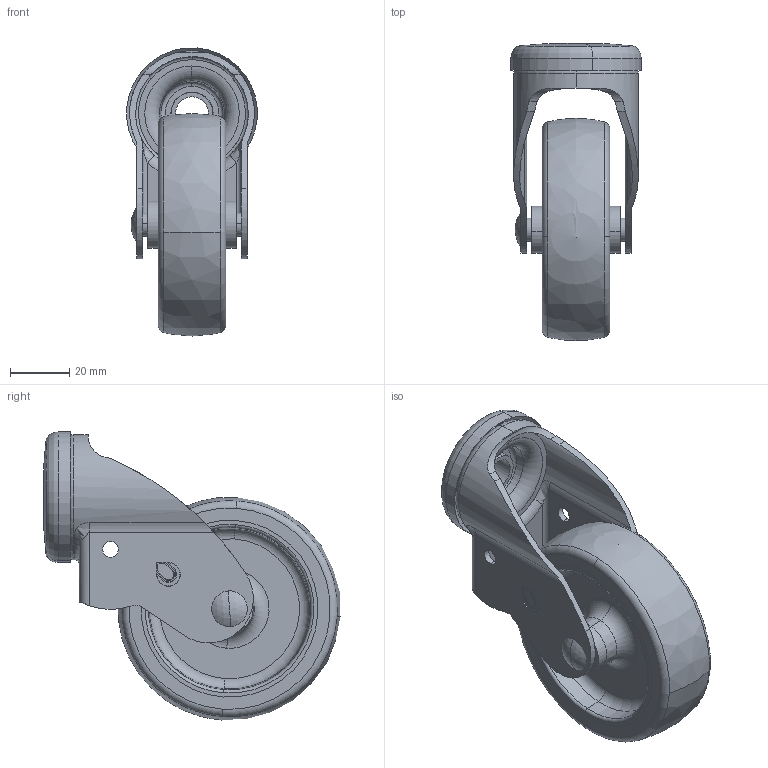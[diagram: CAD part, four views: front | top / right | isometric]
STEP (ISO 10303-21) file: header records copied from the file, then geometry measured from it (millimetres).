
FILE_DESCRIPTION (( 'STEP AP203' ), '1' );
FILE_NAME ('200307_STEP.STEP', '2014-06-12T09:46:22', ( 'admin' ), ( 'Hewlett-Packard Company' ), 'SwSTEP 2.0', 'SolidWorks 2011', '' );
FILE_SCHEMA (( 'CONFIG_CONTROL_DESIGN' ));
Length unit declared in the file: millimetre
Products named in the file (1): 200307_STEP
Bounding box: 43.85 x 99.78 x 96.84 mm (x, y, z)
Volume: 84080.5 mm3; surface area: 54379.4 mm2
Topology: 28 solids, 28 shells, 277 faces, 701 edges, 450 vertices
Faces by surface type: cylinder 81, plane 56, torus 54, sphere 50, cone 32, bspline 4
Entity records: 8317 total; most frequent: CARTESIAN_POINT 2054, DIRECTION 1449, ORIENTED_EDGE 1158, AXIS2_PLACEMENT_3D 640, EDGE_CURVE 579, VERTEX_POINT 378, CIRCLE 366, EDGE_LOOP 317
